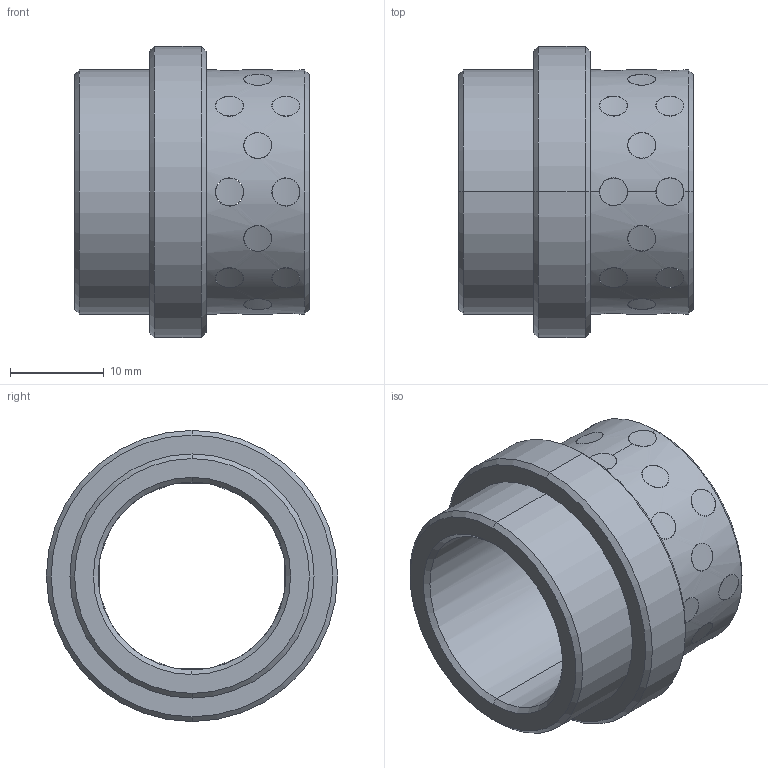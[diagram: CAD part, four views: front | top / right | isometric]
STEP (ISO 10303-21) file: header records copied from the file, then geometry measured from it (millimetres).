
FILE_DESCRIPTION((''),'2;1');
FILE_NAME('G31220017','2017-12-30T',('MANU'),(''),'PRO/ENGINEER BY PARAMETRIC TECHNOLOGY CORPORATION, 2012130','PRO/ENGINEER BY PARAMETRIC TECHNOLOGY CORPORATION, 2012130','');
FILE_SCHEMA(('CONFIG_CONTROL_DESIGN'));
Length unit declared in the file: millimetre
Products named in the file (1): G31220017
Bounding box: 25 x 31 x 31 mm (x, y, z)
Volume: 6685.2 mm3; surface area: 5786.3 mm2
Topology: 25 solids, 25 shells, 168 faces, 360 edges, 236 vertices
Faces by surface type: cylinder 152, cone 12, plane 4
Entity records: 7318 total; most frequent: CARTESIAN_POINT 3952, ORIENTED_EDGE 720, DIRECTION 516, EDGE_CURVE 360, VERTEX_POINT 236, EDGE_LOOP 212, B_SPLINE_CURVE_WITH_KNOTS 208, AXIS2_PLACEMENT_3D 196
